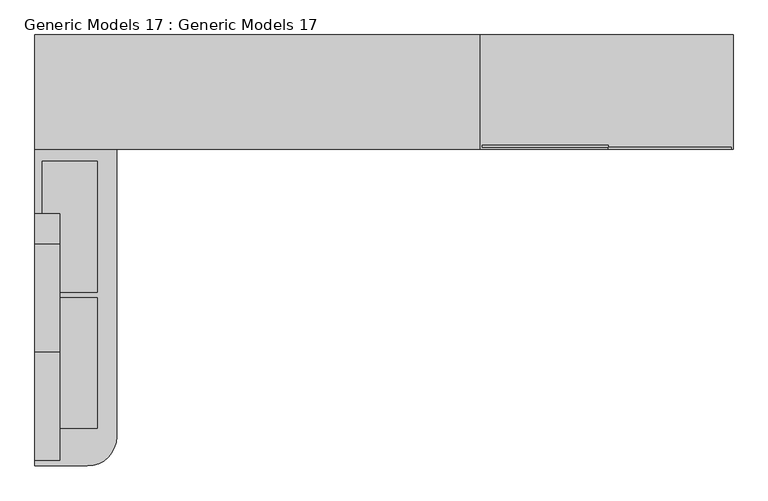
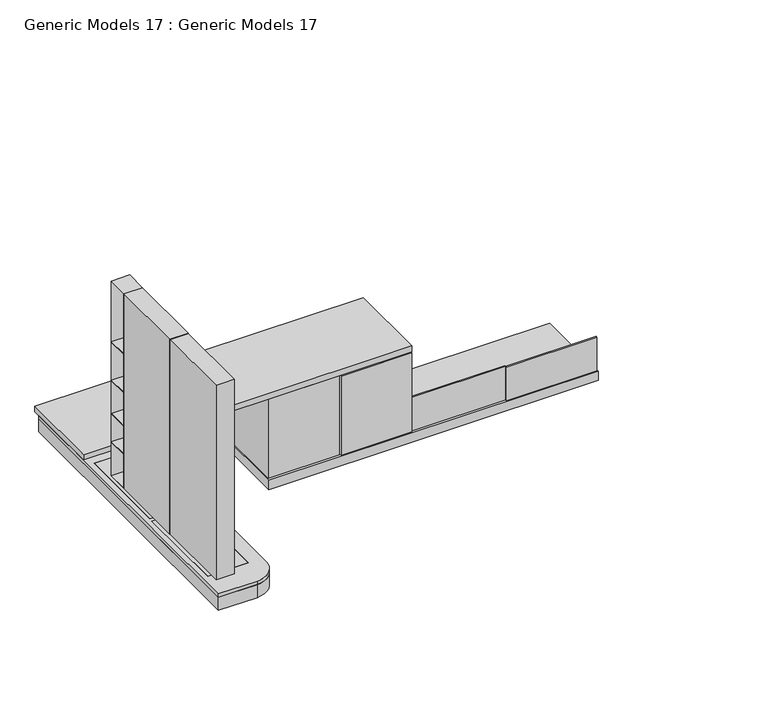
"""IFC4 building model written with IfcOpenShell, lengths in millimetres: proxy geometry, Generic Models 17 : Generic Models 17."""

from ifc_helpers import new_model, si_unit, point, frame, frame_2d, origin, place, context, project, spatial, polyline, circle_curve, trimmed, segment, composite_curve, outline, extrude, source, transform, mapped, element, save
from ifc_brep_helpers import plane_surface, cylinder_surface, advanced_brep


def generic_models_17_generic_models_17_e36c5ee7(model_context):
    return source(origin(), model_context, "Body", "SolidModel", [
        extrude(outline(polyline([(90934.5446631, 24421.9355245), (91234.5446631, 24421.9355245), (91234.5446631, 23711.0228452), (90934.5446631, 23711.0228452), (90934.5446631, 24421.9355245)])), frame((0.0, 0.0, 685.0614887), z_axis=(0.0, 0.0, 1.0), x_axis=(1.0, 0.0, 0.0)), (0.0, 0.0, 1.0), 23.6674764),
        extrude(outline(polyline([(90934.5446631, 25161.9355245), (91234.5446631, 25161.9355245), (91234.5446631, 24451.0228452), (90934.5446631, 24451.0228452), (90934.5446631, 25161.9355245)])), frame((0.0, 0.0, 685.0614887), z_axis=(0.0, 0.0, 1.0), x_axis=(1.0, 0.0, 0.0)), (0.0, 0.0, 1.0), 23.6674764),
        extrude(outline(polyline([(91031.190785, 24872.1071253), (91031.190785, 24713.974129), (90895.5964247, 24713.974129), (90895.5964247, 24872.1071253), (91031.190785, 24872.1071253)])), frame((0.0, 0.0, 1844.0044682), z_axis=(0.0, 0.0, 1.0), x_axis=(1.0, 0.0, 0.0)), (0.0, 0.0, 1.0), 4.0),
        extrude(outline(polyline([(91031.190785, 24872.1071253), (91031.190785, 24713.974129), (90895.5964247, 24713.974129), (90895.5964247, 24872.1071253), (91031.190785, 24872.1071253)])), frame((0.0, 0.0, 1544.0044682), z_axis=(0.0, 0.0, 1.0), x_axis=(1.0, 0.0, 0.0)), (0.0, 0.0, 1.0), 4.0),
        extrude(outline(polyline([(91031.190785, 24872.1071253), (91031.190785, 24713.974129), (90895.5964247, 24713.974129), (90895.5964247, 24872.1071253), (91031.190785, 24872.1071253)])), frame((0.0, 0.0, 1284.0044682), z_axis=(0.0, 0.0, 1.0), x_axis=(1.0, 0.0, 0.0)), (0.0, 0.0, 1.0), 4.0),
        extrude(outline(polyline([(91031.190785, 24872.1071253), (91031.190785, 24713.974129), (90895.5964247, 24713.974129), (90895.5964247, 24872.1071253), (91031.190785, 24872.1071253)])), frame((0.0, 0.0, 1064.0044682), z_axis=(0.0, 0.0, 1.0), x_axis=(1.0, 0.0, 0.0)), (0.0, 0.0, 1.0), 4.0),
        extrude(outline(polyline([(24876.1071253, 800.0), (24713.974129, 800.0), (24713.974129, 2318.0044682), (24876.1071253, 2318.0044682), (24876.1071253, 800.0)]), holes=[polyline([(24872.1071253, 2314.0044682), (24717.974129, 2314.0044682), (24717.974129, 804.0), (24872.1071253, 804.0), (24872.1071253, 2314.0044682)])]), frame((90895.5964247, 0.0, 0.0), z_axis=(1.0, 0.0, 0.0), x_axis=(0.0, 1.0, 0.0)), (0.0, 0.0, 1.0), 135.5943603),
        extrude(outline(composite_curve([segment(polyline([(91340.5964247, 25801.2024905), (91340.5964247, 23666.0228452)]), True, "CONTINUOUS"), segment(trimmed(circle_curve(frame_2d((91180.5964247, 23666.0228452)), 160.0), [point((91340.5964247, 23666.0228452))], [point((91180.5964247, 23506.0228452))], False, "CARTESIAN"), True, "CONTINUOUS"), segment(polyline([(91180.5964247, 23506.0228452), (90895.5964247, 23506.0228452), (90895.5964247, 25801.2024905), (91340.5964247, 25801.2024905)]), True, "CONTINUOUS")], self_intersect=False), holes=[polyline([(91234.5446631, 23711.0228452), (91234.5446631, 24421.9355245), (90934.5446631, 24421.9355245), (90934.5446631, 23711.0228452), (91234.5446631, 23711.0228452)]), polyline([(91234.5446631, 24451.0228452), (91234.5446631, 25161.9355245), (90934.5446631, 25161.9355245), (90934.5446631, 24451.0228452), (91234.5446631, 24451.0228452)])]), frame((0.0, 0.0, 685.0614887), z_axis=(0.0, 0.0, 1.0), x_axis=(1.0, 0.0, 0.0)), (0.0, 0.0, 1.0), 23.6674764),
        advanced_brep(
        [(91340.5964247, 25801.1965617, 681.6600402), (90895.5964247, 25801.1965617, 681.6600402), (90895.5964247, 23506.0228452, 681.6600402), (91180.5964247, 23506.0228452, 681.6600402), (91340.5964247, 23666.0228452, 681.6600402), (91234.5446631, 24421.9355245, 681.6600402), (91234.5446631, 23711.0228452, 681.6600402), (90934.5446631, 23711.0228452, 681.6600402), (90934.5446631, 24421.9355245, 681.6600402), (91234.5446631, 25161.9355245, 681.6600402), (91234.5446631, 24451.0228452, 681.6600402), (90934.5446631, 24451.0228452, 681.6600402), (90934.5446631, 25161.9355245, 681.6600402), (91340.5964247, 25801.1965617, 581.4703824), (91340.5964247, 23666.0228452, 581.4703824), (91180.5964247, 23506.0228452, 581.4703824), (90895.5964247, 23506.0228452, 581.4703824), (90895.5964247, 25801.1965617, 581.4703824), (91340.5964247, 24424.8632518, 672.7873884), (91340.5964247, 24424.8632518, 590.2873884), (91340.5964247, 23695.4016334, 590.2873884), (91340.5964247, 23695.4016334, 672.7873884), (91340.5964247, 25144.8632518, 672.7873884), (91340.5964247, 25144.8632518, 590.2873884), (91340.5964247, 24435.4016334, 590.2873884), (91340.5964247, 24435.4016334, 672.7873884), (91340.5964247, 23699.4016334, 668.7873884), (91340.5964247, 23699.4016334, 594.2873884), (91340.5964247, 24420.8632518, 594.2873884), (91340.5964247, 24420.8632518, 668.7873884), (91340.5964247, 24439.4016334, 668.7873884), (91340.5964247, 24439.4016334, 594.2873884), (91340.5964247, 25140.8632518, 594.2873884), (91340.5964247, 25140.8632518, 668.7873884), (91335.5964247, 24424.8632518, 672.7873884), (91335.5964247, 23695.4016334, 672.7873884), (91335.5964247, 23695.4016334, 590.2873884), (91335.5964247, 24424.8632518, 590.2873884), (91335.5964247, 23699.4016334, 668.7873884), (91335.5964247, 24420.8632518, 668.7873884), (91335.5964247, 24420.8632518, 594.2873884), (91335.5964247, 23699.4016334, 594.2873884), (91335.5964247, 25144.8632518, 672.7873884), (91335.5964247, 24435.4016334, 672.7873884), (91335.5964247, 24435.4016334, 590.2873884), (91335.5964247, 25144.8632518, 590.2873884), (91335.5964247, 24439.4016334, 668.7873884), (91335.5964247, 25140.8632518, 668.7873884), (91335.5964247, 25140.8632518, 594.2873884), (91335.5964247, 24439.4016334, 594.2873884), (91234.5446631, 24421.9355245, 634.9073613), (90934.5446631, 24421.9355245, 634.9073613), (90934.5446631, 23711.0228452, 634.9073613), (91234.5446631, 23711.0228452, 634.9073613), (91234.5446631, 25161.9355245, 634.9073613), (90934.5446631, 25161.9355245, 634.9073613), (90934.5446631, 24451.0228452, 634.9073613), (91234.5446631, 24451.0228452, 634.9073613)],
        [
            (0, 1),
            (1, 2),
            (2, 3),
            (3, 4, circle_curve(frame((91180.5964247, 23666.0228452, 681.6600402), z_axis=(0.0, 0.0, 1.0), x_axis=(1.0, 0.0, 0.0)), 160.0)),
            (4, 0),
            (5, 6),
            (6, 7),
            (7, 8),
            (8, 5),
            (9, 10),
            (10, 11),
            (11, 12),
            (12, 9),
            (13, 14),
            (14, 15, circle_curve(frame((91180.5964247, 23666.0228452, 581.4703824), z_axis=(0.0, 0.0, -1.0), x_axis=(1.0, 0.0, 0.0)), 160.0)),
            (15, 16),
            (16, 17),
            (17, 13),
            (0, 13),
            (17, 1),
            (16, 2),
            (15, 3),
            (4, 14),
            (18, 19),
            (19, 20),
            (20, 21),
            (21, 18),
            (22, 23),
            (23, 24),
            (24, 25),
            (25, 22),
            (26, 27),
            (27, 28),
            (28, 29),
            (29, 26),
            (30, 31),
            (31, 32),
            (32, 33),
            (33, 30),
            (34, 35),
            (35, 36),
            (36, 37),
            (37, 34),
            (38, 39),
            (39, 40),
            (40, 41),
            (41, 38),
            (42, 43),
            (43, 44),
            (44, 45),
            (45, 42),
            (46, 47),
            (47, 48),
            (48, 49),
            (49, 46),
            (37, 19),
            (18, 34),
            (36, 20),
            (35, 21),
            (41, 27),
            (26, 38),
            (40, 28),
            (39, 29),
            (45, 23),
            (22, 42),
            (44, 24),
            (43, 25),
            (49, 31),
            (30, 46),
            (48, 32),
            (47, 33),
            (50, 51),
            (51, 52),
            (52, 53),
            (53, 50),
            (53, 6),
            (5, 50),
            (52, 7),
            (51, 8),
            (54, 55),
            (55, 56),
            (56, 57),
            (57, 54),
            (57, 10),
            (9, 54),
            (56, 11),
            (55, 12),
        ],
        [
            plane_surface(frame((89361.9954136, 25801.1965617, 681.6600402), z_axis=(0.0, 0.0, 1.0), x_axis=(-1.0, 0.0, 0.0))),
            plane_surface(frame((89361.9954136, 25801.1965617, 581.4703824), z_axis=(0.0, 0.0, -1.0), x_axis=(1.0, 0.0, 0.0))),
            plane_surface(frame((91340.5964247, 25801.1965617, 681.6600402), z_axis=(0.0, 1.0, 0.0), x_axis=(0.0, 0.0, -1.0))),
            plane_surface(frame((90895.5964247, 25801.1965617, 681.6600402), z_axis=(-1.0, 0.0, 0.0), x_axis=(0.0, 0.0, -1.0))),
            plane_surface(frame((90895.5964247, 23506.0228452, 681.6600402), z_axis=(0.0, -1.0, 0.0), x_axis=(0.0, 0.0, -1.0))),
            plane_surface(frame((91340.5964247, 23666.0228452, 681.6600402), z_axis=(1.0, 0.0, 0.0), x_axis=(0.0, 0.0, -1.0))),
            cylinder_surface(frame((91180.5964247, 23666.0228452, 581.4703824), z_axis=(0.0, 0.0, 1.0), x_axis=(1.0, 0.0, 0.0)), 160.0),
            plane_surface(frame((91335.5964247, 24424.8632518, 672.7873884), z_axis=(1.0, 0.0, 0.0), x_axis=(0.0, 0.0, -1.0))),
            plane_surface(frame((91335.5964247, 24424.8632518, 672.7873884), z_axis=(0.0, -1.0, 0.0), x_axis=(1.0, 0.0, 0.0))),
            plane_surface(frame((91335.5964247, 24424.8632518, 590.2873884), z_axis=(0.0, 0.0, 1.0), x_axis=(1.0, 0.0, 0.0))),
            plane_surface(frame((91335.5964247, 23695.4016334, 590.2873884), z_axis=(0.0, 1.0, 0.0), x_axis=(1.0, 0.0, 0.0))),
            plane_surface(frame((91335.5964247, 23695.4016334, 672.7873884), z_axis=(0.0, 0.0, -1.0), x_axis=(1.0, 0.0, 0.0))),
            plane_surface(frame((91335.5964247, 23699.4016334, 668.7873884), z_axis=(0.0, -1.0, 0.0), x_axis=(1.0, 0.0, 0.0))),
            plane_surface(frame((91335.5964247, 23699.4016334, 594.2873884), z_axis=(0.0, 0.0, -1.0), x_axis=(1.0, 0.0, 0.0))),
            plane_surface(frame((91335.5964247, 24420.8632518, 594.2873884), z_axis=(0.0, 1.0, 0.0), x_axis=(1.0, 0.0, 0.0))),
            plane_surface(frame((91335.5964247, 24420.8632518, 668.7873884), z_axis=(0.0, 0.0, 1.0), x_axis=(1.0, 0.0, 0.0))),
            plane_surface(frame((91335.5964247, 25144.8632518, 672.7873884), z_axis=(0.0, -1.0, 0.0), x_axis=(1.0, 0.0, 0.0))),
            plane_surface(frame((91335.5964247, 25144.8632518, 590.2873884), z_axis=(0.0, 0.0, 1.0), x_axis=(1.0, 0.0, 0.0))),
            plane_surface(frame((91335.5964247, 24435.4016334, 590.2873884), z_axis=(0.0, 1.0, 0.0), x_axis=(1.0, 0.0, 0.0))),
            plane_surface(frame((91335.5964247, 24435.4016334, 672.7873884), z_axis=(0.0, 0.0, -1.0), x_axis=(1.0, 0.0, 0.0))),
            plane_surface(frame((91335.5964247, 24439.4016334, 668.7873884), z_axis=(0.0, -1.0, 0.0), x_axis=(1.0, 0.0, 0.0))),
            plane_surface(frame((91335.5964247, 24439.4016334, 594.2873884), z_axis=(0.0, 0.0, -1.0), x_axis=(1.0, 0.0, 0.0))),
            plane_surface(frame((91335.5964247, 25140.8632518, 594.2873884), z_axis=(0.0, 1.0, 0.0), x_axis=(1.0, 0.0, 0.0))),
            plane_surface(frame((91335.5964247, 25140.8632518, 668.7873884), z_axis=(0.0, 0.0, 1.0), x_axis=(1.0, 0.0, 0.0))),
            plane_surface(frame((91234.5446631, 23721.9355245, 634.9073613), z_axis=(0.0, 0.0, 1.0), x_axis=(0.0, -1.0, 0.0))),
            plane_surface(frame((91234.5446631, 24421.9355245, 634.9073613), z_axis=(-1.0, 0.0, 0.0), x_axis=(0.0, 0.0, 1.0))),
            plane_surface(frame((91234.5446631, 23711.0228452, 634.9073613), z_axis=(0.0, 1.0, 0.0), x_axis=(0.0, 0.0, 1.0))),
            plane_surface(frame((90934.5446631, 23711.0228452, 634.9073613), z_axis=(1.0, 0.0, 0.0), x_axis=(0.0, 0.0, 1.0))),
            plane_surface(frame((90934.5446631, 24421.9355245, 634.9073613), z_axis=(0.0, -1.0, 0.0), x_axis=(0.0, 0.0, 1.0))),
            plane_surface(frame((91234.5446631, 24461.9355245, 634.9073613), z_axis=(0.0, 0.0, 1.0), x_axis=(0.0, -1.0, 0.0))),
            plane_surface(frame((91234.5446631, 25161.9355245, 634.9073613), z_axis=(-1.0, 0.0, 0.0), x_axis=(0.0, 0.0, 1.0))),
            plane_surface(frame((91234.5446631, 24451.0228452, 634.9073613), z_axis=(0.0, 1.0, 0.0), x_axis=(0.0, 0.0, 1.0))),
            plane_surface(frame((90934.5446631, 24451.0228452, 634.9073613), z_axis=(1.0, 0.0, 0.0), x_axis=(0.0, 0.0, 1.0))),
            plane_surface(frame((90934.5446631, 25161.9355245, 634.9073613), z_axis=(0.0, -1.0, 0.0), x_axis=(0.0, 0.0, 1.0))),
        ],
        [
            (0, [[1, 2, 3, 4, 5], [6, 7, 8, 9], [10, 11, 12, 13]]),
            (1, [[14, 15, 16, 17, 18]]),
            (2, [[-1, 19, -18, 20]]),
            (3, [[-2, -20, -17, 21]]),
            (4, [[-3, -21, -16, 22]]),
            (5, [[-5, 23, -14, -19], [24, 25, 26, 27], [28, 29, 30, 31]]),
            (5, [[32, 33, 34, 35]]),
            (5, [[36, 37, 38, 39]]),
            (6, [[-4, -22, -15, -23]]),
            (7, [[40, 41, 42, 43], [44, 45, 46, 47]]),
            (7, [[48, 49, 50, 51], [52, 53, 54, 55]]),
            (8, [[-43, 56, -24, 57]]),
            (9, [[-42, 58, -25, -56]]),
            (10, [[-41, 59, -26, -58]]),
            (11, [[-40, -57, -27, -59]]),
            (12, [[-47, 60, -32, 61]]),
            (13, [[-46, 62, -33, -60]]),
            (14, [[-45, 63, -34, -62]]),
            (15, [[-44, -61, -35, -63]]),
            (16, [[-51, 64, -28, 65]]),
            (17, [[-50, 66, -29, -64]]),
            (18, [[-49, 67, -30, -66]]),
            (19, [[-48, -65, -31, -67]]),
            (20, [[-55, 68, -36, 69]]),
            (21, [[-54, 70, -37, -68]]),
            (22, [[-53, 71, -38, -70]]),
            (23, [[-52, -69, -39, -71]]),
            (24, [[72, 73, 74, 75]]),
            (25, [[-75, 76, -6, 77]]),
            (26, [[-74, 78, -7, -76]]),
            (27, [[-73, 79, -8, -78]]),
            (28, [[-72, -77, -9, -79]]),
            (29, [[80, 81, 82, 83]]),
            (30, [[-83, 84, -10, 85]]),
            (31, [[-82, 86, -11, -84]]),
            (32, [[-81, 87, -12, -86]]),
            (33, [[-80, -85, -13, -87]]),
        ],
    ),
        extrude(outline(polyline([(91031.190785, 24713.974129), (91031.190785, 24126.0228452), (90895.5964247, 24126.0228452), (90895.5964247, 24713.974129), (91031.190785, 24713.974129)])), frame((0.0, 0.0, 800.0), z_axis=(0.0, 0.0, 1.0), x_axis=(1.0, 0.0, 0.0)), (0.0, 0.0, 1.0), 1518.0044682),
        extrude(outline(polyline([(4506.1188085, 1e-07), (4506.1188086, -591.7882172), (3980.8810106, -591.7882172), (3980.8810106, 0.0), (4506.1188085, 1e-07)])), frame((88281.8313852, 25830.973731, 80.6802548), z_axis=(0.0, 9.11911367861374e-05, 0.9999999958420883), x_axis=(1.0, 2.2294736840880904e-09, 0.0)), (0.0, 0.0, 1.0), 615.8964621),
        extrude(outline(polyline([(4460.0780555, 1e-07), (4460.0780554, -572.1165311), (3939.1571819, -572.1165311), (3939.1571819, 0.0), (4460.0780555, 1e-07)])), frame((88855.9548386, 25801.1463211, 80.6829748), z_axis=(0.0, 9.11911367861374e-05, 0.9999999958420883), x_axis=(1.0, 2.229473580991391e-09, 0.0)), (0.0, 0.0, 1.0), 615.8964621),
        extrude(outline(polyline([(4555.004464, -1e-07), (4555.004464, -10.1520345), (3867.9726816, -10.1520345), (3867.9726816, 0.0), (4555.004464, -1e-07)])), frame((89459.3313865, 25249.3375507, 80.7332948), z_axis=(0.0, 9.11911367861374e-05, 0.9999999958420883), x_axis=(1.0, 2.2294745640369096e-09, 0.0)), (0.0, 0.0, 1.0), 259.5899064),
        extrude(outline(polyline([(4648.5605181, 0.0), (4648.5605182, -10.1520344), (3980.8810107, -10.1520344), (3980.8810107, 0.0), (4648.5605181, 0.0)])), frame((90033.4548398, 25239.1818268, 80.7342209), z_axis=(0.0, 9.11911367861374e-05, 0.9999999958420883), x_axis=(1.0, 2.229474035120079e-09, 0.0)), (0.0, 0.0, 1.0), 259.5899064),
        extrude(outline(polyline([(4563.9767322, 0.0), (4563.9767322, -620.8644679), (2134.2575573, -620.8644678), (2134.2575573, 0.0), (4563.9767322, 0.0)])), frame((90128.4548385, 25849.955469, -0.0566173), z_axis=(0.0, 9.11911367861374e-05, 0.9999999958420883), x_axis=(1.0, 2.229473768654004e-09, 0.0)), (0.0, 0.0, 1.0), 70.5590528),
        extrude(outline(polyline([(91031.190785, 24123.5228452), (91031.190785, 23535.5715615), (90895.5964247, 23535.5715615), (90895.5964247, 24123.5228452), (91031.190785, 24123.5228452)])), frame((0.0, 0.0, 800.0), z_axis=(0.0, 0.0, 1.0), x_axis=(1.0, 0.0, 0.0)), (0.0, 0.0, 1.0), 1518.0044682),
        extrude(outline(polyline([(3187.5780555, 0.0), (3187.5780554, -620.8644679), (767.1415862, -620.8644679), (767.1415862, 0.0), (3187.5780555, 0.0)])), frame((90128.4548385, 25849.955469, 706.622952), z_axis=(0.0, 9.11911367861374e-05, 0.9999999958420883), x_axis=(1.0, 2.2294754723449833e-09, 0.0)), (0.0, 0.0, 1.0), 44.6740887),
    ])


if __name__ == "__main__":
    model = new_model("IFC4")
    model_context = context("Model", 3, world=origin())
    ifc_project = project(units=[si_unit("LENGTHUNIT", "METRE", prefix="MILLI")], contexts=[model_context])
    site = spatial("IfcSite", under=ifc_project)
    building = spatial("IfcBuilding", under=site)
    placement = place(None, origin())
    generic_models_17_generic_models_17_shape = generic_models_17_generic_models_17_e36c5ee7(model_context)
    element("IfcBuildingElementProxy", 1, Name="Generic Models 17 : Generic Models 17", ObjectType="Generic Models 17 : Generic Models 17", at=placement, inside=building, context=model_context, shape_type="MappedRepresentation", body=[
        mapped(generic_models_17_generic_models_17_shape, transform((0.0, 0.0, 0.0), x_axis=(1.0, 0.0, 0.0), y_axis=(0.0, 1.0, 0.0), z_axis=(0.0, 0.0, 1.0))),
    ])
    save(model, "model.ifc")
